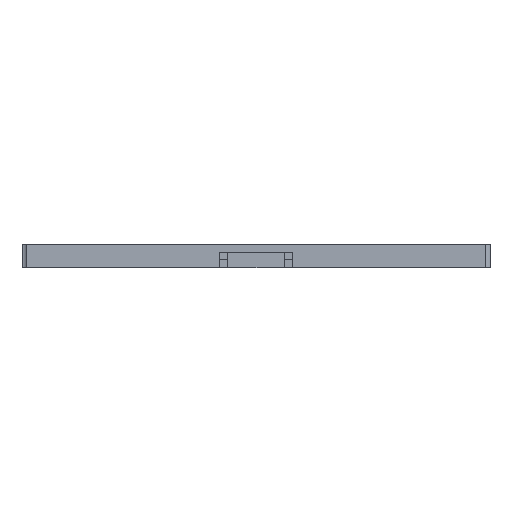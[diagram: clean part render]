
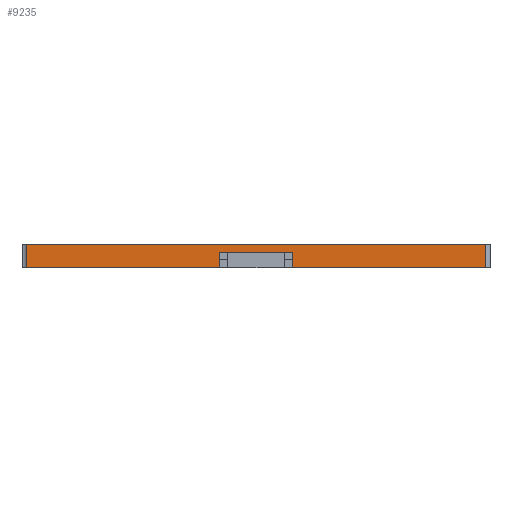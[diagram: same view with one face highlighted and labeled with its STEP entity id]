
A CAD part, front view. The second image highlights one B-rep face of the part: STEP entity #9235.
In plain terms, the highlighted planar face has unit normal (0, -1, 0).
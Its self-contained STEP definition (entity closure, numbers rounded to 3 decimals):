
#14 = EDGE_CURVE ( 'NONE', #4098, #2949, #10110, .T. ) ;
#93 = CARTESIAN_POINT ( 'NONE',  ( 59., 0., 4.5 ) ) ;
#743 = CARTESIAN_POINT ( 'NONE',  ( 138.75, 0., 7. ) ) ;
#749 = CARTESIAN_POINT ( 'NONE',  ( 0., 0., 0. ) ) ;
#802 = CARTESIAN_POINT ( 'NONE',  ( 138.75, 0., 0. ) ) ;
#1105 = ORIENTED_EDGE ( 'NONE', *, *, #1466, .F. ) ;
#1126 = VECTOR ( 'NONE', #5097, 1000. ) ;
#1145 = VECTOR ( 'NONE', #2638, 1000. ) ;
#1214 = EDGE_CURVE ( 'NONE', #10569, #9293, #5585, .T. ) ;
#1235 = PLANE ( 'NONE',  #12993 ) ;
#1466 = EDGE_CURVE ( 'NONE', #11276, #4098, #4896, .T. ) ;
#2374 = EDGE_CURVE ( 'NONE', #4091, #10569, #10209, .T. ) ;
#2638 = DIRECTION ( 'NONE',  ( 0., 0., -1. ) ) ;
#2663 = DIRECTION ( 'NONE',  ( 0., 1., 0. ) ) ;
#2826 = ORIENTED_EDGE ( 'NONE', *, *, #14635, .T. ) ;
#2949 = VERTEX_POINT ( 'NONE', #7848 ) ;
#3051 = VECTOR ( 'NONE', #5570, 1000. ) ;
#3402 = CARTESIAN_POINT ( 'NONE',  ( 138.75, 0., 0. ) ) ;
#3465 = VERTEX_POINT ( 'NONE', #8224 ) ;
#3521 = ORIENTED_EDGE ( 'NONE', *, *, #2374, .F. ) ;
#3560 = DIRECTION ( 'NONE',  ( 0., 0., -1. ) ) ;
#3646 = LINE ( 'NONE', #6759, #8177 ) ;
#3959 = VECTOR ( 'NONE', #12120, 1000. ) ;
#3960 = VECTOR ( 'NONE', #3560, 1000. ) ;
#3961 = DIRECTION ( 'NONE',  ( 0., 0., 1. ) ) ;
#4091 = VERTEX_POINT ( 'NONE', #7548 ) ;
#4098 = VERTEX_POINT ( 'NONE', #93 ) ;
#4389 = DIRECTION ( 'NONE',  ( 1., 0., 0. ) ) ;
#4528 = LINE ( 'NONE', #8840, #3960 ) ;
#4547 = VERTEX_POINT ( 'NONE', #802 ) ;
#4587 = DIRECTION ( 'NONE',  ( 0., 0., 1. ) ) ;
#4896 = LINE ( 'NONE', #8970, #3959 ) ;
#5097 = DIRECTION ( 'NONE',  ( 1., 0., 0. ) ) ;
#5099 = EDGE_CURVE ( 'NONE', #11276, #3465, #4528, .T. ) ;
#5199 = ORIENTED_EDGE ( 'NONE', *, *, #14, .F. ) ;
#5570 = DIRECTION ( 'NONE',  ( 0., 0., 1. ) ) ;
#5585 = LINE ( 'NONE', #14259, #10129 ) ;
#6719 = EDGE_LOOP ( 'NONE', ( #1105, #12949, #8870, #14431, #11655, #3521, #2826, #5199 ) ) ;
#6759 = CARTESIAN_POINT ( 'NONE',  ( 0., 0., 0. ) ) ;
#7548 = CARTESIAN_POINT ( 'NONE',  ( 1.25, 0., 0. ) ) ;
#7848 = CARTESIAN_POINT ( 'NONE',  ( 59., 0., 0. ) ) ;
#8177 = VECTOR ( 'NONE', #9179, 1000. ) ;
#8224 = CARTESIAN_POINT ( 'NONE',  ( 81., 0., 0. ) ) ;
#8840 = CARTESIAN_POINT ( 'NONE',  ( 81., 0., 76.481 ) ) ;
#8870 = ORIENTED_EDGE ( 'NONE', *, *, #12643, .T. ) ;
#8970 = CARTESIAN_POINT ( 'NONE',  ( 81., 0., 4.5 ) ) ;
#9179 = DIRECTION ( 'NONE',  ( 1., 0., 0. ) ) ;
#9235 = ADVANCED_FACE ( 'NONE', ( #11790 ), #1235, .F. ) ;
#9293 = VERTEX_POINT ( 'NONE', #743 ) ;
#9901 = LINE ( 'NONE', #3402, #3051 ) ;
#10110 = LINE ( 'NONE', #13975, #1145 ) ;
#10129 = VECTOR ( 'NONE', #4389, 1000. ) ;
#10209 = LINE ( 'NONE', #14782, #14779 ) ;
#10569 = VERTEX_POINT ( 'NONE', #11263 ) ;
#10613 = CARTESIAN_POINT ( 'NONE',  ( 0., 0., 7. ) ) ;
#11263 = CARTESIAN_POINT ( 'NONE',  ( 1.25, 0., 7. ) ) ;
#11276 = VERTEX_POINT ( 'NONE', #14044 ) ;
#11543 = LINE ( 'NONE', #749, #1126 ) ;
#11655 = ORIENTED_EDGE ( 'NONE', *, *, #1214, .F. ) ;
#11790 = FACE_OUTER_BOUND ( 'NONE', #6719, .T. ) ;
#12120 = DIRECTION ( 'NONE',  ( -1., 0., 0. ) ) ;
#12643 = EDGE_CURVE ( 'NONE', #3465, #4547, #11543, .T. ) ;
#12792 = EDGE_CURVE ( 'NONE', #4547, #9293, #9901, .T. ) ;
#12949 = ORIENTED_EDGE ( 'NONE', *, *, #5099, .T. ) ;
#12993 = AXIS2_PLACEMENT_3D ( 'NONE', #10613, #2663, #4587 ) ;
#13975 = CARTESIAN_POINT ( 'NONE',  ( 59., 0., 76.481 ) ) ;
#14044 = CARTESIAN_POINT ( 'NONE',  ( 81., 0., 4.5 ) ) ;
#14259 = CARTESIAN_POINT ( 'NONE',  ( 0., 0., 7. ) ) ;
#14431 = ORIENTED_EDGE ( 'NONE', *, *, #12792, .T. ) ;
#14635 = EDGE_CURVE ( 'NONE', #4091, #2949, #3646, .T. ) ;
#14779 = VECTOR ( 'NONE', #3961, 1000. ) ;
#14782 = CARTESIAN_POINT ( 'NONE',  ( 1.25, 0., 0. ) ) ;
